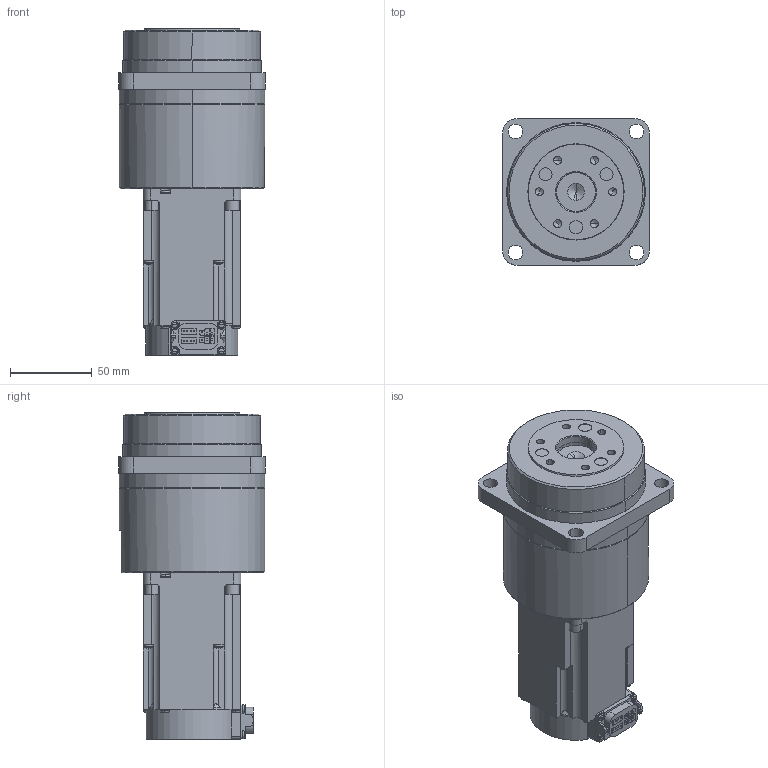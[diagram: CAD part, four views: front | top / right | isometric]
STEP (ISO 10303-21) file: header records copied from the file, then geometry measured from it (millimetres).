
FILE_DESCRIPTION((''),'2;1');
FILE_NAME('BC70079_HK-KT23WBG5-20A-21','2019-06-20T',('pc0000'),(''),'CREO PARAMETRIC BY PTC INC, 2018220','CREO PARAMETRIC BY PTC INC, 2018220','');
FILE_SCHEMA(('CONFIG_CONTROL_DESIGN'));
Length unit declared in the file: millimetre
Products named in the file (1): BC70079_HK-KT23WBG5-20A-21
Bounding box: 90 x 90 x 200.1 mm (x, y, z)
Volume: 906094 mm3; surface area: 72816.3 mm2
Topology: 1 solids, 1 shells, 607 faces, 1511 edges, 946 vertices
Faces by surface type: plane 312, cylinder 184, cone 45, torus 34, sphere 32
Entity records: 17942 total; most frequent: CARTESIAN_POINT 3258, DIRECTION 3163, ORIENTED_EDGE 2930, EDGE_CURVE 1465, AXIS2_PLACEMENT_3D 1110, VERTEX_POINT 946, VECTOR 943, LINE 943
